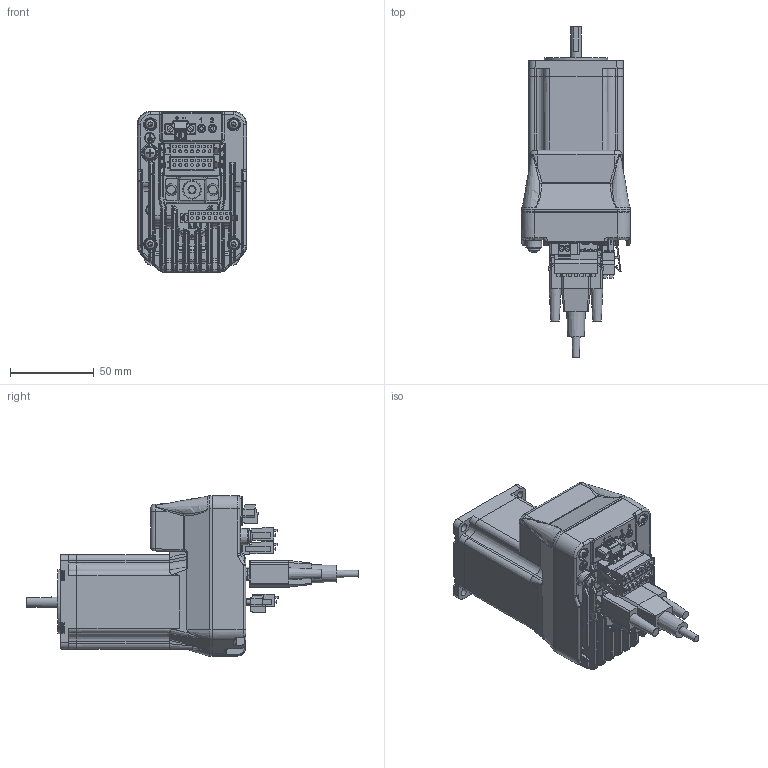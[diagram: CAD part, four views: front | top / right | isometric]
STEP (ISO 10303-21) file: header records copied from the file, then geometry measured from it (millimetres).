
FILE_DESCRIPTION(('LMDXPMA57-Triple-Stack Web Model.stp'),'1');
FILE_NAME('T:/Kubotek Models For Design Assemblies/On-Line web models/LMD23/LMDXPMA57-Triple-Stack Web Model.stp', '2013-04-02T16:00:58',('P. Bordua, 04/02/13'), ('Schneider Electric Motion USA'), 'KCM Version 1.1.514.0', 'Kubotek KeyCreator', 'Kubotek KeyCreator 2012 11.3.1');
FILE_SCHEMA(('AUTOMOTIVE_DESIGN'));
Length unit declared in the file: inch
Bounding box: 65.15 x 198.17 x 96.07 mm (x, y, z)
Volume: 483512 mm3; surface area: 74883.3 mm2
Topology: 9 solids, 9 shells, 3548 faces, 8962 edges, 5701 vertices
Faces by surface type: plane 2007, cylinder 743, bspline 579, cone 130, torus 56, sphere 33
Full cylindrical faces by diameter (mm): 1.092 x27, 1.6 x31, 1.611 x4, 1.686 x28, 2.261 x2, 2.5 x2, 2.743 x4, 3.792 x4, 5.004 x4, 5.007 x2, 5.6 x4, 6.35 x1, 6.858 x1, 7.692 x1, 16.18 x1, 38.1 x1
Entity records: 124591 total; most frequent: CARTESIAN_POINT 54449, ORIENTED_EDGE 14342, DIRECTION 12054, EDGE_CURVE 7171, VERTEX_POINT 4544, VECTOR 4186, LINE 4186, AXIS2_PLACEMENT_3D 3934
